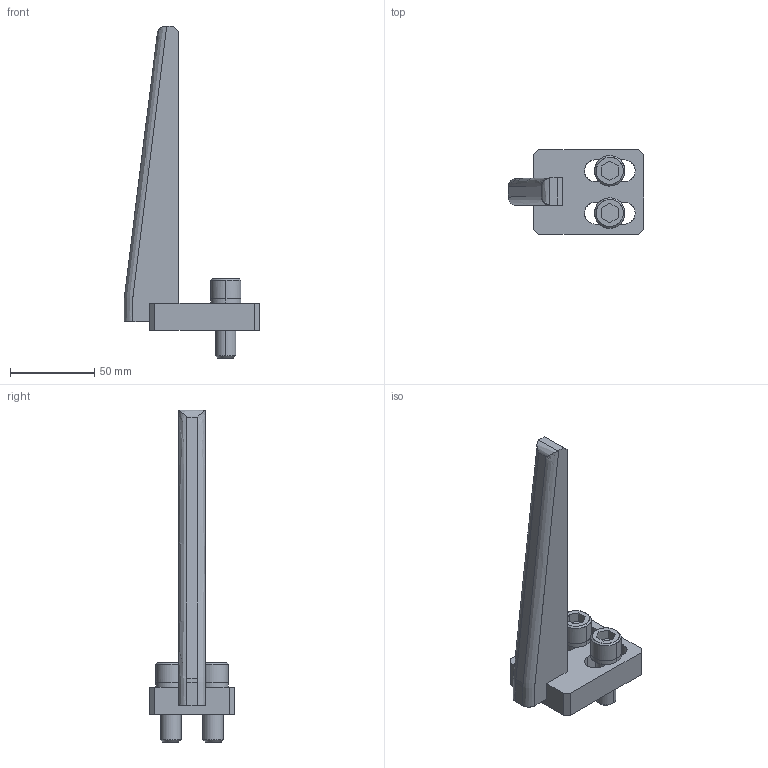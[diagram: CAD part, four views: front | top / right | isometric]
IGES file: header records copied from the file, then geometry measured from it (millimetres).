
Global section: file name: E:\UnigraphicsGraphicData\MISUMI_PRESS-PARTS\IGES\3d_ngga-180-20-20_01478_r00.igs; native system: NX V5.0; preprocessor: UGS NX IGES V5.0; author: MISUMI; date: 20110105.162028; units: millimetre
Bounding box: 80 x 50 x 196.5 mm (x, y, z)
Surface area: 31604.5 mm2 (no closed solid volume)
Topology: 0 solids, 0 shells, 103 faces, 664 edges, 664 vertices
Faces by surface type: bspline 103
